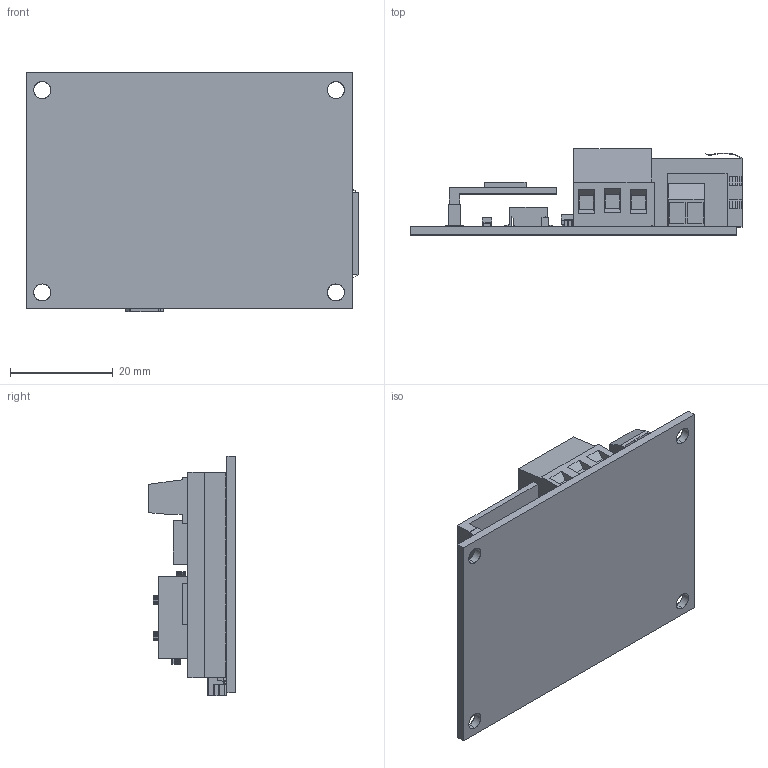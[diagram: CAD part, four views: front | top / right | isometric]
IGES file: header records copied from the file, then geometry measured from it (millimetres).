
Start section: SolidWorks IGES file using analytic representation for surfaces
Global section: file name: C:\Users\Agamemnon\Documents\FATHOM-X-R1\FATHOMX-ASM-FATHOM-X-R1\FATHOMX-ASM-FATHOM-X-R1.IGS; native system: SolidWorks 2016; preprocessor: SolidWorks 2016; author: Agamemnon; date: 180629.085711; units: metre
Bounding box: 64.59 x 16.8 x 46.6 mm (x, y, z)
Surface area: 14877.6 mm2 (no closed solid volume)
Topology: 0 solids, 0 shells, 1258 faces, 8441 edges, 8441 vertices
Faces by surface type: bspline 1176, revolution 82
